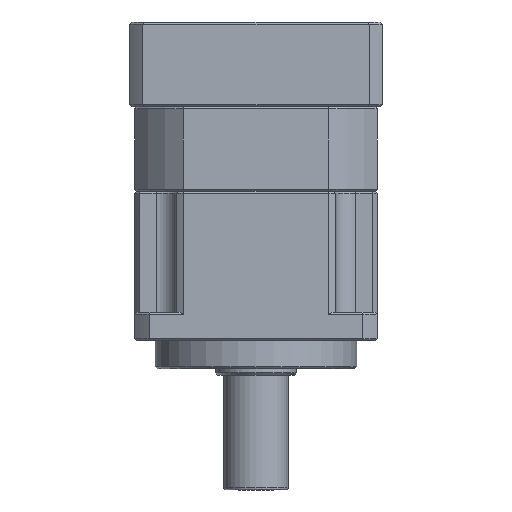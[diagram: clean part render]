
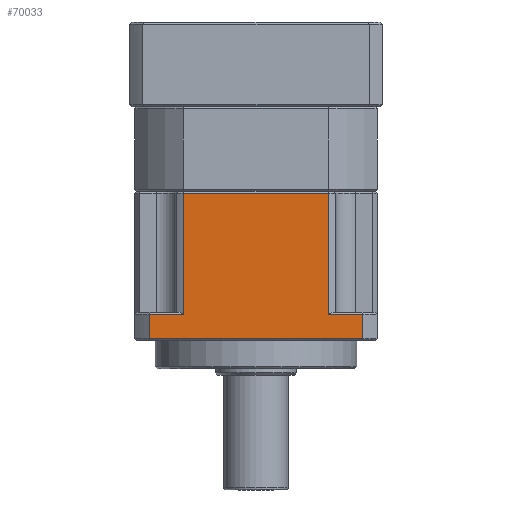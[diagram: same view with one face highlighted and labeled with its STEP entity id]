
A CAD part, front view. The second image highlights one B-rep face of the part: STEP entity #70033.
In plain terms, the highlighted planar face has unit normal (0, -1, 0).
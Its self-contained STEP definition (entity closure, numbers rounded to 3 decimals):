
#3208 = LINE ( 'NONE', #50761, #24672 ) ;
#4965 = CARTESIAN_POINT ( 'NONE',  ( -38.231, -27.039, 80.502 ) ) ;
#9245 = CARTESIAN_POINT ( 'NONE',  ( -38.231, -27.039, 110.502 ) ) ;
#12647 = EDGE_CURVE ( 'NONE', #103839, #74954, #57576, .T. ) ;
#12824 = FACE_OUTER_BOUND ( 'NONE', #51891, .T. ) ;
#12983 = ORIENTED_EDGE ( 'NONE', *, *, #44374, .F. ) ;
#13422 = AXIS2_PLACEMENT_3D ( 'NONE', #81536, #33320, #89615 ) ;
#14013 = CARTESIAN_POINT ( 'NONE',  ( 9.797, -27.039, 80.502 ) ) ;
#17588 = ORIENTED_EDGE ( 'NONE', *, *, #52394, .F. ) ;
#23338 = CARTESIAN_POINT ( 'NONE',  ( 9.797, -27.039, 80.502 ) ) ;
#23450 = ORIENTED_EDGE ( 'NONE', *, *, #100151, .T. ) ;
#24672 = VECTOR ( 'NONE', #58804, 1000. ) ;
#27499 = DIRECTION ( 'NONE',  ( 0., 0., -1. ) ) ;
#33320 = DIRECTION ( 'NONE',  ( 0., 1., 0. ) ) ;
#35575 = CARTESIAN_POINT ( 'NONE',  ( -38.231, -27.039, 111.002 ) ) ;
#35769 = VECTOR ( 'NONE', #63279, 1000. ) ;
#35987 = ORIENTED_EDGE ( 'NONE', *, *, #12647, .F. ) ;
#36170 = VECTOR ( 'NONE', #100828, 1000. ) ;
#37842 = CARTESIAN_POINT ( 'NONE',  ( -2.175, -27.039, 110.502 ) ) ;
#39031 = CARTESIAN_POINT ( 'NONE',  ( 9.797, -27.039, 74.502 ) ) ;
#39416 = DIRECTION ( 'NONE',  ( 1., 0., 0. ) ) ;
#39849 = VECTOR ( 'NONE', #69802, 1000. ) ;
#40413 = EDGE_CURVE ( 'NONE', #79043, #74125, #101504, .T. ) ;
#41232 = LINE ( 'NONE', #35575, #81524 ) ;
#43342 = DIRECTION ( 'NONE',  ( 0., 0., 1. ) ) ;
#43785 = LINE ( 'NONE', #99558, #97965 ) ;
#44374 = EDGE_CURVE ( 'NONE', #86169, #79043, #3208, .T. ) ;
#50508 = CARTESIAN_POINT ( 'NONE',  ( -46.661, -27.039, 74.502 ) ) ;
#50761 = CARTESIAN_POINT ( 'NONE',  ( -2.175, -27.039, 111.002 ) ) ;
#51891 = EDGE_LOOP ( 'NONE', ( #12983, #23450, #78962, #17588, #35987, #73044, #56518, #85008 ) ) ;
#52122 = EDGE_CURVE ( 'NONE', #58399, #77331, #41232, .T. ) ;
#52394 = EDGE_CURVE ( 'NONE', #74954, #58399, #58701, .T. ) ;
#53851 = CARTESIAN_POINT ( 'NONE',  ( -2.175, -27.039, 80.502 ) ) ;
#55807 = EDGE_CURVE ( 'NONE', #74125, #101456, #43785, .T. ) ;
#56518 = ORIENTED_EDGE ( 'NONE', *, *, #55807, .F. ) ;
#57576 = LINE ( 'NONE', #92772, #36170 ) ;
#58399 = VERTEX_POINT ( 'NONE', #4965 ) ;
#58557 = CARTESIAN_POINT ( 'NONE',  ( -50.203, -27.039, 110.502 ) ) ;
#58701 = LINE ( 'NONE', #23338, #101551 ) ;
#58804 = DIRECTION ( 'NONE',  ( 0., 0., -1. ) ) ;
#63279 = DIRECTION ( 'NONE',  ( -1., 0., 0. ) ) ;
#66668 = DIRECTION ( 'NONE',  ( -1., 0., 0. ) ) ;
#68409 = CARTESIAN_POINT ( 'NONE',  ( 6.254, -27.039, 74.502 ) ) ;
#69802 = DIRECTION ( 'NONE',  ( 1., 0., 0. ) ) ;
#70033 = ADVANCED_FACE ( 'NONE', ( #12824 ), #97365, .F. ) ;
#73044 = ORIENTED_EDGE ( 'NONE', *, *, #88306, .F. ) ;
#74125 = VERTEX_POINT ( 'NONE', #90639 ) ;
#74937 = LINE ( 'NONE', #58557, #91315 ) ;
#74954 = VERTEX_POINT ( 'NONE', #81630 ) ;
#77331 = VERTEX_POINT ( 'NONE', #9245 ) ;
#78587 = LINE ( 'NONE', #39031, #35769 ) ;
#78962 = ORIENTED_EDGE ( 'NONE', *, *, #52122, .F. ) ;
#79043 = VERTEX_POINT ( 'NONE', #53851 ) ;
#81524 = VECTOR ( 'NONE', #43342, 1000. ) ;
#81536 = CARTESIAN_POINT ( 'NONE',  ( 9.797, -27.039, 111.002 ) ) ;
#81630 = CARTESIAN_POINT ( 'NONE',  ( -46.661, -27.039, 80.502 ) ) ;
#85008 = ORIENTED_EDGE ( 'NONE', *, *, #40413, .F. ) ;
#86169 = VERTEX_POINT ( 'NONE', #37842 ) ;
#88306 = EDGE_CURVE ( 'NONE', #101456, #103839, #78587, .T. ) ;
#89615 = DIRECTION ( 'NONE',  ( 0., 0., 1. ) ) ;
#90639 = CARTESIAN_POINT ( 'NONE',  ( 6.254, -27.039, 80.502 ) ) ;
#91315 = VECTOR ( 'NONE', #66668, 1000. ) ;
#92772 = CARTESIAN_POINT ( 'NONE',  ( -46.661, -27.039, 111.002 ) ) ;
#97365 = PLANE ( 'NONE',  #13422 ) ;
#97965 = VECTOR ( 'NONE', #27499, 1000. ) ;
#99558 = CARTESIAN_POINT ( 'NONE',  ( 6.254, -27.039, 111.002 ) ) ;
#100151 = EDGE_CURVE ( 'NONE', #86169, #77331, #74937, .T. ) ;
#100828 = DIRECTION ( 'NONE',  ( 0., 0., 1. ) ) ;
#101456 = VERTEX_POINT ( 'NONE', #68409 ) ;
#101504 = LINE ( 'NONE', #14013, #39849 ) ;
#101551 = VECTOR ( 'NONE', #39416, 1000. ) ;
#103839 = VERTEX_POINT ( 'NONE', #50508 ) ;
